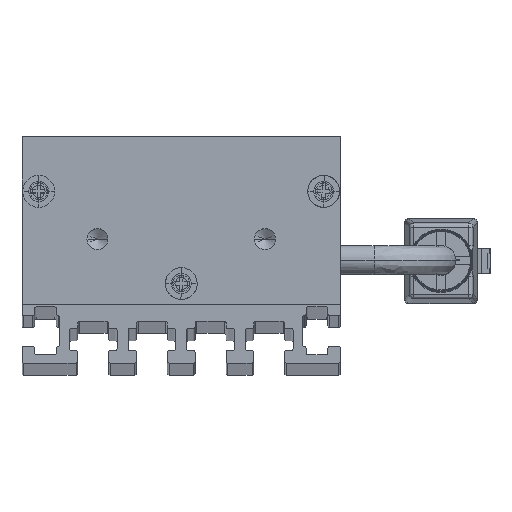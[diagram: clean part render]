
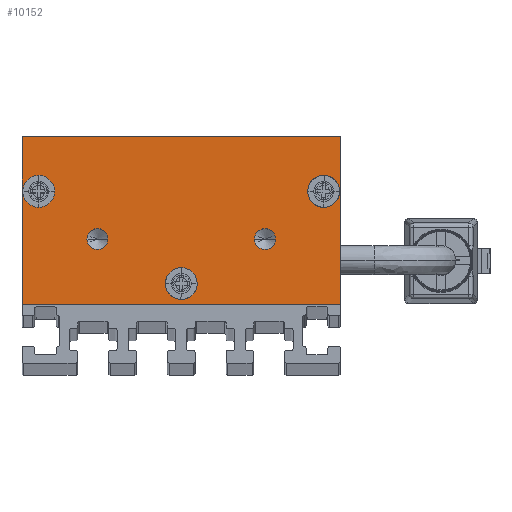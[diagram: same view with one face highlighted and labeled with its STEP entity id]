
A CAD part, top view. The second image highlights one B-rep face of the part: STEP entity #10152.
In plain terms, the highlighted planar face has unit normal (0, 0, 1) as drawn and (0, 0, -1) by its records, which use the part's own axes.
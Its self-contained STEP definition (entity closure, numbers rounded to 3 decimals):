
#130 = CIRCLE ( 'NONE', #11511, 1.9 ) ;
#184 = AXIS2_PLACEMENT_3D ( 'NONE', #12461, #5908, #14797 ) ;
#211 = LINE ( 'NONE', #15647, #14209 ) ;
#242 = FACE_BOUND ( 'NONE', #10128, .T. ) ;
#391 = CARTESIAN_POINT ( 'NONE',  ( 19., 0., -2.5 ) ) ;
#518 = DIRECTION ( 'NONE',  ( 0., 0., -1. ) ) ;
#725 = VERTEX_POINT ( 'NONE', #6493 ) ;
#729 = DIRECTION ( 'NONE',  ( 0., 0., -1. ) ) ;
#930 = CIRCLE ( 'NONE', #5152, 1.25 ) ;
#1292 = EDGE_LOOP ( 'NONE', ( #1790, #13250 ) ) ;
#1315 = CARTESIAN_POINT ( 'NONE',  ( 15.1, 13.5, -2.5 ) ) ;
#1323 = DIRECTION ( 'NONE',  ( 1., 0., 0. ) ) ;
#1671 = CARTESIAN_POINT ( 'NONE',  ( -11.25, 7.8, -2.5 ) ) ;
#1712 = CIRCLE ( 'NONE', #14967, 1.25 ) ;
#1716 = DIRECTION ( 'NONE',  ( -1., 0., 0. ) ) ;
#1790 = ORIENTED_EDGE ( 'NONE', *, *, #3496, .F. ) ;
#1801 = EDGE_CURVE ( 'NONE', #4879, #10144, #8584, .T. ) ;
#1913 = CARTESIAN_POINT ( 'NONE',  ( 0., 2.5, -2.5 ) ) ;
#1977 = VERTEX_POINT ( 'NONE', #7821 ) ;
#1985 = AXIS2_PLACEMENT_3D ( 'NONE', #1913, #518, #6971 ) ;
#2265 = CIRCLE ( 'NONE', #1985, 1.9 ) ;
#2348 = DIRECTION ( 'NONE',  ( 0., 0., -1. ) ) ;
#2362 = DIRECTION ( 'NONE',  ( 0., -1., 0. ) ) ;
#2503 = EDGE_CURVE ( 'NONE', #5414, #6175, #2265, .T. ) ;
#2708 = FACE_BOUND ( 'NONE', #5277, .T. ) ;
#2861 = EDGE_CURVE ( 'NONE', #7185, #4879, #13020, .T. ) ;
#3008 = DIRECTION ( 'NONE',  ( 0., 1., 0. ) ) ;
#3048 = AXIS2_PLACEMENT_3D ( 'NONE', #6833, #15649, #6592 ) ;
#3084 = CARTESIAN_POINT ( 'NONE',  ( 10., 7.8, -2.5 ) ) ;
#3217 = VERTEX_POINT ( 'NONE', #1315 ) ;
#3460 = LINE ( 'NONE', #13588, #4092 ) ;
#3496 = EDGE_CURVE ( 'NONE', #6175, #5414, #10914, .T. ) ;
#3518 = CARTESIAN_POINT ( 'NONE',  ( -10., 7.8, -2.5 ) ) ;
#3667 = VERTEX_POINT ( 'NONE', #1671 ) ;
#3716 = PLANE ( 'NONE',  #14734 ) ;
#3882 = FACE_BOUND ( 'NONE', #14267, .T. ) ;
#4092 = VECTOR ( 'NONE', #12503, 1000. ) ;
#4221 = ORIENTED_EDGE ( 'NONE', *, *, #1801, .F. ) ;
#4703 = VERTEX_POINT ( 'NONE', #5105 ) ;
#4709 = EDGE_CURVE ( 'NONE', #10144, #9160, #3460, .T. ) ;
#4879 = VERTEX_POINT ( 'NONE', #11655 ) ;
#5105 = CARTESIAN_POINT ( 'NONE',  ( 11.25, 7.8, -2.5 ) ) ;
#5152 = AXIS2_PLACEMENT_3D ( 'NONE', #3518, #14980, #12408 ) ;
#5277 = EDGE_LOOP ( 'NONE', ( #15173, #9450 ) ) ;
#5414 = VERTEX_POINT ( 'NONE', #12271 ) ;
#5715 = AXIS2_PLACEMENT_3D ( 'NONE', #15304, #8289, #10221 ) ;
#5733 = CIRCLE ( 'NONE', #184, 1.25 ) ;
#5908 = DIRECTION ( 'NONE',  ( 0., 0., -1. ) ) ;
#6084 = ORIENTED_EDGE ( 'NONE', *, *, #14660, .F. ) ;
#6175 = VERTEX_POINT ( 'NONE', #10982 ) ;
#6207 = FACE_BOUND ( 'NONE', #12106, .T. ) ;
#6337 = CARTESIAN_POINT ( 'NONE',  ( -19., 20., -2.5 ) ) ;
#6348 = EDGE_CURVE ( 'NONE', #6461, #3667, #930, .T. ) ;
#6350 = ORIENTED_EDGE ( 'NONE', *, *, #6510, .F. ) ;
#6461 = VERTEX_POINT ( 'NONE', #14224 ) ;
#6493 = CARTESIAN_POINT ( 'NONE',  ( 8.75, 7.8, -2.5 ) ) ;
#6510 = EDGE_CURVE ( 'NONE', #3217, #14222, #130, .T. ) ;
#6542 = CARTESIAN_POINT ( 'NONE',  ( -19., 0., -2.5 ) ) ;
#6592 = DIRECTION ( 'NONE',  ( -1., 0., 0. ) ) ;
#6833 = CARTESIAN_POINT ( 'NONE',  ( 10., 7.8, -2.5 ) ) ;
#6971 = DIRECTION ( 'NONE',  ( -1., 0., 0. ) ) ;
#6985 = DIRECTION ( 'NONE',  ( 0., 0., -1. ) ) ;
#7012 = CARTESIAN_POINT ( 'NONE',  ( -17., 13.5, -2.5 ) ) ;
#7185 = VERTEX_POINT ( 'NONE', #10577 ) ;
#7621 = DIRECTION ( 'NONE',  ( 0., 0., 1. ) ) ;
#7821 = CARTESIAN_POINT ( 'NONE',  ( -15.1, 13.5, -2.5 ) ) ;
#7876 = ORIENTED_EDGE ( 'NONE', *, *, #4709, .F. ) ;
#8067 = CARTESIAN_POINT ( 'NONE',  ( 17., 13.5, -2.5 ) ) ;
#8289 = DIRECTION ( 'NONE',  ( 0., 0., -1. ) ) ;
#8464 = EDGE_CURVE ( 'NONE', #3667, #6461, #5733, .T. ) ;
#8507 = ORIENTED_EDGE ( 'NONE', *, *, #10378, .F. ) ;
#8584 = LINE ( 'NONE', #6337, #12705 ) ;
#8615 = CIRCLE ( 'NONE', #12893, 1.9 ) ;
#9026 = FACE_OUTER_BOUND ( 'NONE', #13194, .T. ) ;
#9059 = ORIENTED_EDGE ( 'NONE', *, *, #13482, .F. ) ;
#9160 = VERTEX_POINT ( 'NONE', #391 ) ;
#9286 = DIRECTION ( 'NONE',  ( -1., 0., 0. ) ) ;
#9450 = ORIENTED_EDGE ( 'NONE', *, *, #6348, .F. ) ;
#9532 = CARTESIAN_POINT ( 'NONE',  ( -19., 20., -2.5 ) ) ;
#9641 = DIRECTION ( 'NONE',  ( -1., 0., 0. ) ) ;
#9936 = EDGE_CURVE ( 'NONE', #11406, #1977, #15253, .T. ) ;
#9941 = CIRCLE ( 'NONE', #3048, 1.25 ) ;
#10124 = CARTESIAN_POINT ( 'NONE',  ( -18.9, 13.5, -2.5 ) ) ;
#10128 = EDGE_LOOP ( 'NONE', ( #6350, #8507 ) ) ;
#10144 = VERTEX_POINT ( 'NONE', #6542 ) ;
#10152 = ADVANCED_FACE ( 'NONE', ( #242, #11596, #6207, #3882, #2708, #9026 ), #3716, .F. ) ;
#10221 = DIRECTION ( 'NONE',  ( -1., 0., 0. ) ) ;
#10378 = EDGE_CURVE ( 'NONE', #14222, #3217, #14471, .T. ) ;
#10488 = AXIS2_PLACEMENT_3D ( 'NONE', #13084, #10753, #1716 ) ;
#10577 = CARTESIAN_POINT ( 'NONE',  ( 19., 20., -2.5 ) ) ;
#10623 = DIRECTION ( 'NONE',  ( 0., 0., -1. ) ) ;
#10753 = DIRECTION ( 'NONE',  ( 0., 0., -1. ) ) ;
#10914 = CIRCLE ( 'NONE', #14090, 1.9 ) ;
#10982 = CARTESIAN_POINT ( 'NONE',  ( -1.9, 2.5, -2.5 ) ) ;
#11133 = DIRECTION ( 'NONE',  ( -1., 0., 0. ) ) ;
#11406 = VERTEX_POINT ( 'NONE', #10124 ) ;
#11511 = AXIS2_PLACEMENT_3D ( 'NONE', #8067, #6985, #9641 ) ;
#11596 = FACE_BOUND ( 'NONE', #1292, .T. ) ;
#11655 = CARTESIAN_POINT ( 'NONE',  ( -19., 20., -2.5 ) ) ;
#12106 = EDGE_LOOP ( 'NONE', ( #15500, #12815 ) ) ;
#12244 = DIRECTION ( 'NONE',  ( -1., 0., 0. ) ) ;
#12271 = CARTESIAN_POINT ( 'NONE',  ( 1.9, 2.5, -2.5 ) ) ;
#12408 = DIRECTION ( 'NONE',  ( -1., 0., 0. ) ) ;
#12461 = CARTESIAN_POINT ( 'NONE',  ( -10., 7.8, -2.5 ) ) ;
#12475 = CARTESIAN_POINT ( 'NONE',  ( 0., 2.5, -2.5 ) ) ;
#12503 = DIRECTION ( 'NONE',  ( 1., 0., 0. ) ) ;
#12705 = VECTOR ( 'NONE', #2362, 1000. ) ;
#12815 = ORIENTED_EDGE ( 'NONE', *, *, #14369, .F. ) ;
#12893 = AXIS2_PLACEMENT_3D ( 'NONE', #7012, #729, #12244 ) ;
#13020 = LINE ( 'NONE', #9532, #14628 ) ;
#13023 = ORIENTED_EDGE ( 'NONE', *, *, #15139, .F. ) ;
#13084 = CARTESIAN_POINT ( 'NONE',  ( 17., 13.5, -2.5 ) ) ;
#13194 = EDGE_LOOP ( 'NONE', ( #4221, #15685, #9059, #7876 ) ) ;
#13250 = ORIENTED_EDGE ( 'NONE', *, *, #2503, .F. ) ;
#13482 = EDGE_CURVE ( 'NONE', #9160, #7185, #211, .T. ) ;
#13588 = CARTESIAN_POINT ( 'NONE',  ( -19., 0., -2.5 ) ) ;
#14090 = AXIS2_PLACEMENT_3D ( 'NONE', #12475, #2348, #11133 ) ;
#14155 = CARTESIAN_POINT ( 'NONE',  ( 18.9, 13.5, -2.5 ) ) ;
#14209 = VECTOR ( 'NONE', #3008, 1000. ) ;
#14222 = VERTEX_POINT ( 'NONE', #14155 ) ;
#14224 = CARTESIAN_POINT ( 'NONE',  ( -8.75, 7.8, -2.5 ) ) ;
#14267 = EDGE_LOOP ( 'NONE', ( #6084, #13023 ) ) ;
#14369 = EDGE_CURVE ( 'NONE', #1977, #11406, #8615, .T. ) ;
#14471 = CIRCLE ( 'NONE', #10488, 1.9 ) ;
#14628 = VECTOR ( 'NONE', #9286, 1000. ) ;
#14660 = EDGE_CURVE ( 'NONE', #725, #4703, #9941, .T. ) ;
#14734 = AXIS2_PLACEMENT_3D ( 'NONE', #15104, #7621, #1323 ) ;
#14797 = DIRECTION ( 'NONE',  ( -1., 0., 0. ) ) ;
#14967 = AXIS2_PLACEMENT_3D ( 'NONE', #3084, #10623, #15961 ) ;
#14980 = DIRECTION ( 'NONE',  ( 0., 0., -1. ) ) ;
#15104 = CARTESIAN_POINT ( 'NONE',  ( 0., 0., -2.5 ) ) ;
#15139 = EDGE_CURVE ( 'NONE', #4703, #725, #1712, .T. ) ;
#15173 = ORIENTED_EDGE ( 'NONE', *, *, #8464, .F. ) ;
#15253 = CIRCLE ( 'NONE', #5715, 1.9 ) ;
#15304 = CARTESIAN_POINT ( 'NONE',  ( -17., 13.5, -2.5 ) ) ;
#15500 = ORIENTED_EDGE ( 'NONE', *, *, #9936, .F. ) ;
#15647 = CARTESIAN_POINT ( 'NONE',  ( 19., 20., -2.5 ) ) ;
#15649 = DIRECTION ( 'NONE',  ( 0., 0., -1. ) ) ;
#15685 = ORIENTED_EDGE ( 'NONE', *, *, #2861, .F. ) ;
#15961 = DIRECTION ( 'NONE',  ( -1., 0., 0. ) ) ;
